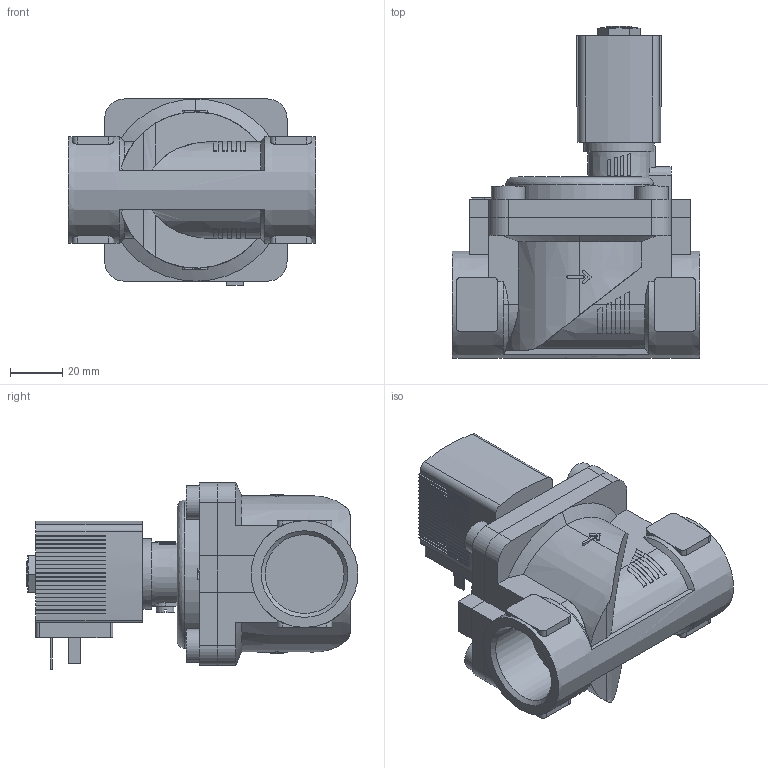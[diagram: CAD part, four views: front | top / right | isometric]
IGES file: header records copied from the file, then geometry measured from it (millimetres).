
Start section: Data from Parasolid IGES Translator 26.0.171, Copyright(c) 2006 Siemens PLM Software. All Rights Reserved.
Global section: file name: 6281-340417-2_2-Way_Solenoid_Valve__Servo-assisted__General_Purpose.igs; native system: By Siemens PLM Incorporated; preprocessor: XPlus GENERIC/IGES 26.0.171; author: Noname; organization: Noname; date: 20240930.081055; units: millimetre
Bounding box: 95 x 127.5 x 71.5 mm (x, y, z)
Surface area: 55074.3 mm2 (no closed solid volume)
Topology: 0 solids, 0 shells, 565 faces, 3148 edges, 3128 vertices
Faces by surface type: extrusion 444, revolution 121
